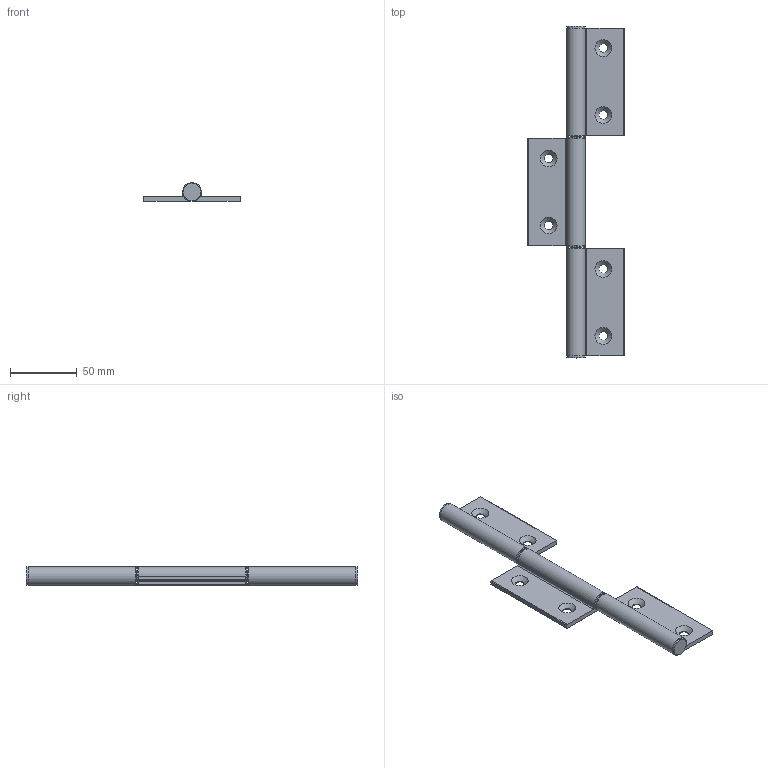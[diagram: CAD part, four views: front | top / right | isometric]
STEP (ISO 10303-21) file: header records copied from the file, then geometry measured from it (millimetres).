
FILE_DESCRIPTION( ( 'STEP AP203' ), '1' );
FILE_NAME( 'C:/Temp/Ganter_Step_05_03_2020/data/3_3/gn2295/Hinge GN 2295-72-245-A-C-EL.stp', '2020-03-12T12:07:51', ( 'License CC BY-ND 4.0' ), ( 'CADENAS' ), ' ', 'PARTsolutions', ' ' );
FILE_SCHEMA( ( 'CONFIG_CONTROL_DESIGN' ) );
Length unit declared in the file: millimetre
Products named in the file (4): Hinge GN 2295-72-245-A-C-EL; _Hinge GN 2295-72-245-A-C-EL-1; _Hinge GN 2295-72-245-A-C-EL-2; _Hinge GN 2295-72-245-A-C-EL-3
Assembly tree (3 placements, depth 2):
  Hinge GN 2295-72-245-A-C-EL
    _Hinge GN 2295-72-245-A-C-EL-1
    _Hinge GN 2295-72-245-A-C-EL-2
    _Hinge GN 2295-72-245-A-C-EL-3
Bounding box: 72 x 248 x 14 mm (x, y, z)
Volume: 63480 mm3; surface area: 35550.9 mm2
Topology: 3 solids, 3 shells, 87 faces, 224 edges, 147 vertices
Faces by surface type: plane 49, cylinder 30, cone 6, torus 2
Full cylindrical faces by diameter (mm): 6 x2, 6.6 x6, 8 x4, 13.9 x6
Entity records: 2656 total; most frequent: DIRECTION 471, CARTESIAN_POINT 422, ORIENTED_EDGE 382, EDGE_CURVE 191, AXIS2_PLACEMENT_3D 189, VERTEX_POINT 140, EDGE_LOOP 133, FACE_OUTER_BOUND 107
